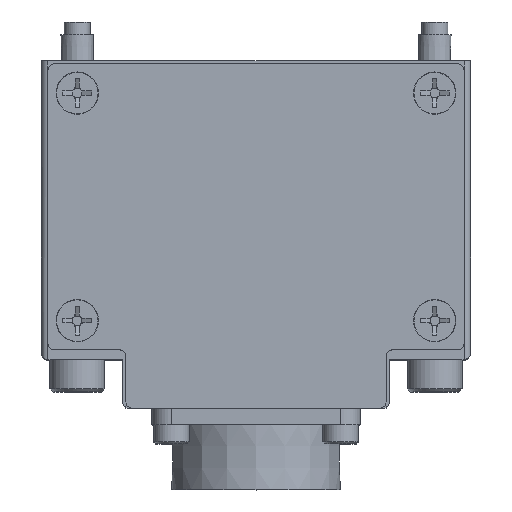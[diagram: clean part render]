
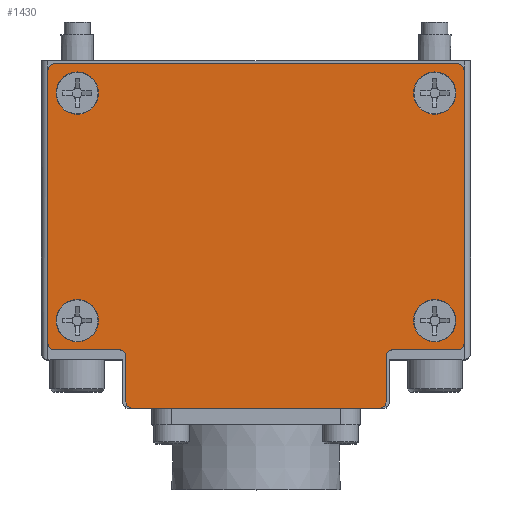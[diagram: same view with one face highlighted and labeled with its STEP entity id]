
A CAD part, top view. The second image highlights one B-rep face of the part: STEP entity #1430.
In plain terms, the highlighted planar face has unit normal (0, 0, 1).
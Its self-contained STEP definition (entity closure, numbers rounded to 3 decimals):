
#1430=ADVANCED_FACE('',(#3092,#3093,#3094,#3095,#3096),#3097,.F.);
#3092=FACE_BOUND('',#4873,.T.);
#3093=FACE_BOUND('',#4874,.T.);
#3094=FACE_BOUND('',#4875,.T.);
#3095=FACE_BOUND('',#4876,.T.);
#3096=FACE_OUTER_BOUND('',#4877,.T.);
#3097=PLANE('',#4878);
#4873=EDGE_LOOP('',(#8611));
#4874=EDGE_LOOP('',(#8612));
#4875=EDGE_LOOP('',(#8613));
#4876=EDGE_LOOP('',(#8614));
#4877=EDGE_LOOP('',(#8615,#8616,#8617,#8618,#8619,#8620,#8621,#8622,#8623,#8624,#8625,#8626,#8627,#8628,#8629,#8630));
#4878=AXIS2_PLACEMENT_3D('',#8631,#8632,#8633);
#8611=ORIENTED_EDGE('',*,*,#10547,.F.);
#8612=ORIENTED_EDGE('',*,*,#10533,.F.);
#8613=ORIENTED_EDGE('',*,*,#10548,.F.);
#8614=ORIENTED_EDGE('',*,*,#9383,.F.);
#8615=ORIENTED_EDGE('',*,*,#10544,.T.);
#8616=ORIENTED_EDGE('',*,*,#10549,.T.);
#8617=ORIENTED_EDGE('',*,*,#10509,.F.);
#8618=ORIENTED_EDGE('',*,*,#10550,.T.);
#8619=ORIENTED_EDGE('',*,*,#9418,.T.);
#8620=ORIENTED_EDGE('',*,*,#10551,.T.);
#8621=ORIENTED_EDGE('',*,*,#9425,.T.);
#8622=ORIENTED_EDGE('',*,*,#9282,.T.);
#8623=ORIENTED_EDGE('',*,*,#10501,.F.);
#8624=ORIENTED_EDGE('',*,*,#9386,.T.);
#8625=ORIENTED_EDGE('',*,*,#9306,.T.);
#8626=ORIENTED_EDGE('',*,*,#9269,.T.);
#8627=ORIENTED_EDGE('',*,*,#9398,.T.);
#8628=ORIENTED_EDGE('',*,*,#9391,.T.);
#8629=ORIENTED_EDGE('',*,*,#9396,.T.);
#8630=ORIENTED_EDGE('',*,*,#9403,.T.);
#8631=CARTESIAN_POINT('',(32.0,-53.5,44.0));
#8632=DIRECTION('',(0.0,0.0,-1.0));
#8633=DIRECTION('',(0.0,-1.0,0.0));
#9269=EDGE_CURVE('',#10806,#10804,#10807,.T.);
#9282=EDGE_CURVE('',#10828,#10826,#10829,.T.);
#9306=EDGE_CURVE('',#10869,#10806,#10870,.T.);
#9383=EDGE_CURVE('',#10998,#10998,#10999,.T.);
#9386=EDGE_CURVE('',#11003,#10869,#11004,.T.);
#9391=EDGE_CURVE('',#11012,#11010,#11013,.T.);
#9396=EDGE_CURVE('',#11010,#11018,#11020,.T.);
#9398=EDGE_CURVE('',#10804,#11012,#11022,.T.);
#9403=EDGE_CURVE('',#11018,#11027,#11029,.T.);
#9418=EDGE_CURVE('',#11054,#11052,#11055,.T.);
#9425=EDGE_CURVE('',#11064,#10828,#11065,.T.);
#10501=EDGE_CURVE('',#11003,#10826,#12641,.T.);
#10509=EDGE_CURVE('',#12650,#12651,#12652,.T.);
#10533=EDGE_CURVE('',#12679,#12679,#12680,.T.);
#10544=EDGE_CURVE('',#11027,#12690,#12692,.T.);
#10547=EDGE_CURVE('',#12695,#12695,#12696,.T.);
#10548=EDGE_CURVE('',#12697,#12697,#12698,.T.);
#10549=EDGE_CURVE('',#12690,#12651,#12699,.T.);
#10550=EDGE_CURVE('',#12650,#11054,#12700,.T.);
#10551=EDGE_CURVE('',#11052,#11064,#12701,.T.);
#10804=VERTEX_POINT('',#13022);
#10806=VERTEX_POINT('',#13025);
#10807=CIRCLE('',#13026,1.0);
#10826=VERTEX_POINT('',#13046);
#10828=VERTEX_POINT('',#13049);
#10829=CIRCLE('',#13050,1.0);
#10869=VERTEX_POINT('',#13100);
#10870=LINE('',#13101,#13102);
#10998=VERTEX_POINT('',#13256);
#10999=CIRCLE('',#13257,3.25);
#11003=VERTEX_POINT('',#13261);
#11004=CIRCLE('',#13262,1.0);
#11010=VERTEX_POINT('',#13269);
#11012=VERTEX_POINT('',#13272);
#11013=CIRCLE('',#13273,1.0);
#11018=VERTEX_POINT('',#13280);
#11020=LINE('',#13283,#13284);
#11022=LINE('',#13286,#13287);
#11027=VERTEX_POINT('',#13293);
#11029=CIRCLE('',#13296,1.0);
#11052=VERTEX_POINT('',#13320);
#11054=VERTEX_POINT('',#13323);
#11055=LINE('',#13324,#13325);
#11064=VERTEX_POINT('',#13338);
#11065=LINE('',#13339,#13340);
#12641=LINE('',#15511,#15512);
#12650=VERTEX_POINT('',#15521);
#12651=VERTEX_POINT('',#15522);
#12652=LINE('',#15523,#15524);
#12679=VERTEX_POINT('',#15557);
#12680=CIRCLE('',#15558,3.25);
#12690=VERTEX_POINT('',#15568);
#12692=LINE('',#15571,#15572);
#12695=VERTEX_POINT('',#15575);
#12696=CIRCLE('',#15576,3.25);
#12697=VERTEX_POINT('',#15577);
#12698=CIRCLE('',#15578,3.25);
#12699=CIRCLE('',#15579,1.0);
#12700=CIRCLE('',#15580,1.0);
#12701=CIRCLE('',#15581,1.0);
#13022=CARTESIAN_POINT('',(21.0,-44.5,44.0));
#13025=CARTESIAN_POINT('',(20.0,-45.5,44.0));
#13026=AXIS2_PLACEMENT_3D('',#15867,#15868,#15869);
#13046=CARTESIAN_POINT('',(-19.,-53.5,44.0));
#13049=CARTESIAN_POINT('',(-20.,-52.5,44.0));
#13050=AXIS2_PLACEMENT_3D('',#15890,#15891,#15892);
#13100=CARTESIAN_POINT('',(20.0,-52.5,44.0));
#13101=CARTESIAN_POINT('',(20.0,-53.5,44.0));
#13102=VECTOR('',#15924,1.0);
#13256=CARTESIAN_POINT('',(-27.5,-43.25,44.0));
#13257=AXIS2_PLACEMENT_3D('',#16032,#16033,#16034);
#13261=CARTESIAN_POINT('',(19.0,-53.5,44.0));
#13262=AXIS2_PLACEMENT_3D('',#16038,#16039,#16040);
#13269=CARTESIAN_POINT('',(32.0,-43.5,44.0));
#13272=CARTESIAN_POINT('',(31.0,-44.5,44.0));
#13273=AXIS2_PLACEMENT_3D('',#16046,#16047,#16048);
#13280=CARTESIAN_POINT('',(32.0,-1.5,44.0));
#13283=CARTESIAN_POINT('',(32.0,-53.5,44.0));
#13284=VECTOR('',#16052,1.0);
#13286=CARTESIAN_POINT('',(20.0,-44.5,44.0));
#13287=VECTOR('',#16053,1.0);
#13293=CARTESIAN_POINT('',(31.0,-0.5,44.0));
#13296=AXIS2_PLACEMENT_3D('',#16059,#16060,#16061);
#13320=CARTESIAN_POINT('',(-21.,-44.5,44.0));
#13323=CARTESIAN_POINT('',(-31.0,-44.5,44.0));
#13324=CARTESIAN_POINT('',(-32.0,-44.5,44.0));
#13325=VECTOR('',#16085,1.0);
#13338=CARTESIAN_POINT('',(-20.,-45.5,44.0));
#13339=CARTESIAN_POINT('',(-20.,-44.5,44.0));
#13340=VECTOR('',#16090,1.0);
#15511=CARTESIAN_POINT('',(32.0,-53.5,44.0));
#15512=VECTOR('',#17145,1.0);
#15521=CARTESIAN_POINT('',(-32.0,-43.5,44.0));
#15522=CARTESIAN_POINT('',(-32.0,-1.5,44.0));
#15523=CARTESIAN_POINT('',(-32.0,-53.5,44.0));
#15524=VECTOR('',#17149,1.0);
#15557=CARTESIAN_POINT('',(-27.5,-8.25,44.0));
#15558=AXIS2_PLACEMENT_3D('',#17165,#17166,#17167);
#15568=CARTESIAN_POINT('',(-31.0,-0.5,44.0));
#15571=CARTESIAN_POINT('',(32.0,-0.5,44.0));
#15572=VECTOR('',#17169,1.0);
#15575=CARTESIAN_POINT('',(27.5,-8.25,44.0));
#15576=AXIS2_PLACEMENT_3D('',#17170,#17171,#17172);
#15577=CARTESIAN_POINT('',(27.5,-43.25,44.0));
#15578=AXIS2_PLACEMENT_3D('',#17173,#17174,#17175);
#15579=AXIS2_PLACEMENT_3D('',#17176,#17177,#17178);
#15580=AXIS2_PLACEMENT_3D('',#17179,#17180,#17181);
#15581=AXIS2_PLACEMENT_3D('',#17182,#17183,#17184);
#15867=CARTESIAN_POINT('',(21.0,-45.5,44.0));
#15868=DIRECTION('',(0.0,0.0,-1.0));
#15869=DIRECTION('',(0.0,-1.0,0.0));
#15890=CARTESIAN_POINT('',(-19.,-52.5,44.0));
#15891=DIRECTION('',(0.0,0.0,1.0));
#15892=DIRECTION('',(0.0,-1.0,0.0));
#15924=DIRECTION('',(0.0,1.0,0.0));
#16032=CARTESIAN_POINT('',(-27.5,-40.0,44.0));
#16033=DIRECTION('',(0.0,0.,1.0));
#16034=DIRECTION('',(0.0,-1.0,0.));
#16038=CARTESIAN_POINT('',(19.0,-52.5,44.0));
#16039=DIRECTION('',(0.0,0.0,1.0));
#16040=DIRECTION('',(0.0,-1.0,0.0));
#16046=CARTESIAN_POINT('',(31.0,-43.5,44.0));
#16047=DIRECTION('',(0.0,0.0,1.0));
#16048=DIRECTION('',(0.0,-1.0,0.0));
#16052=DIRECTION('',(0.0,1.0,0.0));
#16053=DIRECTION('',(1.0,0.0,0.0));
#16059=CARTESIAN_POINT('',(31.0,-1.5,44.0));
#16060=DIRECTION('',(0.0,0.0,1.0));
#16061=DIRECTION('',(0.0,-1.0,0.0));
#16085=DIRECTION('',(1.0,0.0,0.0));
#16090=DIRECTION('',(0.0,-1.0,0.0));
#17145=DIRECTION('',(-1.0,0.0,0.0));
#17149=DIRECTION('',(0.0,1.0,0.0));
#17165=CARTESIAN_POINT('',(-27.5,-5.0,44.0));
#17166=DIRECTION('',(0.0,0.,1.0));
#17167=DIRECTION('',(0.0,-1.0,0.));
#17169=DIRECTION('',(-1.0,0.0,0.0));
#17170=CARTESIAN_POINT('',(27.5,-5.0,44.0));
#17171=DIRECTION('',(0.0,0.,1.0));
#17172=DIRECTION('',(0.0,-1.0,0.));
#17173=CARTESIAN_POINT('',(27.5,-40.0,44.0));
#17174=DIRECTION('',(0.0,0.,1.0));
#17175=DIRECTION('',(0.0,-1.0,0.));
#17176=CARTESIAN_POINT('',(-31.0,-1.5,44.0));
#17177=DIRECTION('',(0.0,0.0,1.0));
#17178=DIRECTION('',(0.0,-1.0,0.0));
#17179=CARTESIAN_POINT('',(-31.0,-43.5,44.0));
#17180=DIRECTION('',(0.0,0.0,1.0));
#17181=DIRECTION('',(0.0,-1.0,0.0));
#17182=CARTESIAN_POINT('',(-21.,-45.5,44.0));
#17183=DIRECTION('',(0.0,0.0,-1.0));
#17184=DIRECTION('',(0.0,-1.0,0.0));
